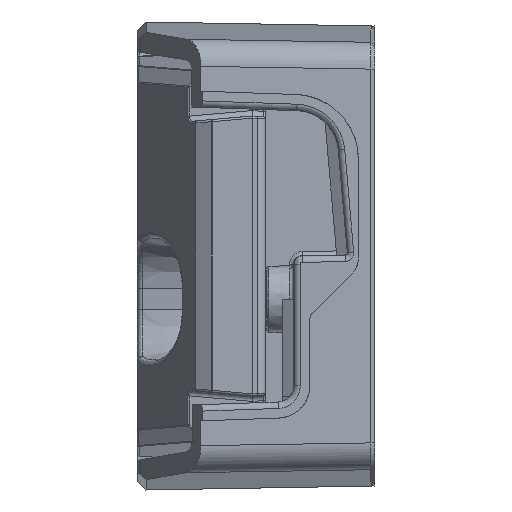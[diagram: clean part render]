
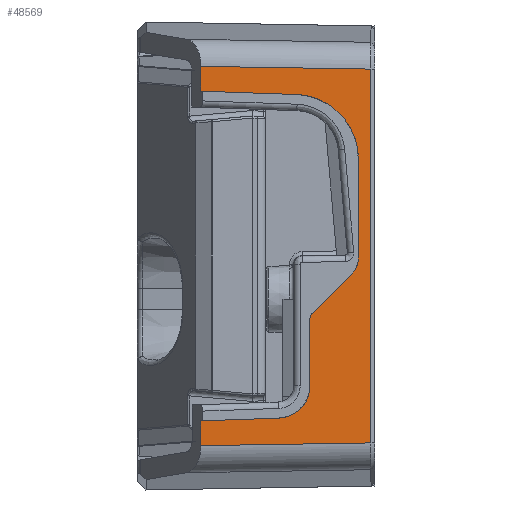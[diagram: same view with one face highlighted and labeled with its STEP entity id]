
A CAD part, left-side view. The second image highlights one B-rep face of the part: STEP entity #48569.
In plain terms, the highlighted planar face has unit normal (-1, -0.018, 0).
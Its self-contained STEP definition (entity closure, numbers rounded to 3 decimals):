
#704 =( BOUNDED_CURVE ( )  B_SPLINE_CURVE ( 3, ( #135104, #28384, #39841, #30629 ),
 .UNSPECIFIED., .F., .F. ) 
 B_SPLINE_CURVE_WITH_KNOTS ( ( 4, 4 ),
 ( 5.498, 6.283 ),
 .UNSPECIFIED. ) 
 CURVE ( )  GEOMETRIC_REPRESENTATION_ITEM ( )  RATIONAL_B_SPLINE_CURVE ( ( 1., 0.949, 0.949, 1. ) ) 
 REPRESENTATION_ITEM ( '' )  );
#1016 = AXIS2_PLACEMENT_3D ( 'NONE', #99237, #51968, #51227 ) ;
#3045 = VERTEX_POINT ( 'NONE', #68424 ) ;
#4633 = PLANE ( 'NONE',  #1016 ) ;
#6024 = EDGE_CURVE ( 'NONE', #40184, #68858, #48511, .T. ) ;
#7207 = CARTESIAN_POINT ( 'NONE',  ( -72.633, 1.5, 12.415 ) ) ;
#8900 = ORIENTED_EDGE ( 'NONE', *, *, #6024, .F. ) ;
#9000 = EDGE_CURVE ( 'NONE', #40184, #144266, #127580, .T. ) ;
#10662 = CARTESIAN_POINT ( 'NONE',  ( -72.633, 1.5, -0.709 ) ) ;
#12581 = DIRECTION ( 'NONE',  ( 0., 0., 1. ) ) ;
#13620 = VERTEX_POINT ( 'NONE', #120472 ) ;
#15319 = FACE_OUTER_BOUND ( 'NONE', #112232, .T. ) ;
#15800 = CARTESIAN_POINT ( 'NONE',  ( -72.888, 16.121, -15.301 ) ) ;
#16610 = ORIENTED_EDGE ( 'NONE', *, *, #147770, .F. ) ;
#17102 = LINE ( 'NONE', #19391, #86036 ) ;
#19391 = CARTESIAN_POINT ( 'NONE',  ( -72.991, 22.04, -17.697 ) ) ;
#20194 = CARTESIAN_POINT ( 'NONE',  ( -72.633, 1.5, -1. ) ) ;
#22099 = EDGE_CURVE ( 'NONE', #50490, #89593, #57225, .T. ) ;
#23606 = CARTESIAN_POINT ( 'NONE',  ( -72.612, 0.332, 17.349 ) ) ;
#25943 = VERTEX_POINT ( 'NONE', #62823 ) ;
#27703 = EDGE_CURVE ( 'NONE', #67527, #49726, #95968, .T. ) ;
#28384 = CARTESIAN_POINT ( 'NONE',  ( -72.71, 5.897, -5.397 ) ) ;
#28821 = DIRECTION ( 'NONE',  ( 0.012, -0.707, 0.707 ) ) ;
#29110 = CARTESIAN_POINT ( 'NONE',  ( -72.762, 8.895, -15.049 ) ) ;
#29194 = VECTOR ( 'NONE', #97255, 1000. ) ;
#29354 = CARTESIAN_POINT ( 'NONE',  ( -72.633, 1.5, 8.996 ) ) ;
#30629 = CARTESIAN_POINT ( 'NONE',  ( -72.711, 6., -5.914 ) ) ;
#30855 = CARTESIAN_POINT ( 'NONE',  ( -72.734, 7.291, 14.993 ) ) ;
#32056 = CARTESIAN_POINT ( 'NONE',  ( -72.643, 2.086, -1.586 ) ) ;
#35718 = ORIENTED_EDGE ( 'NONE', *, *, #22099, .T. ) ;
#38011 = EDGE_CURVE ( 'NONE', #130501, #45905, #65188, .T. ) ;
#38214 = VECTOR ( 'NONE', #88942, 1000. ) ;
#38658 = CARTESIAN_POINT ( 'NONE',  ( -72.612, 0.332, -17.349 ) ) ;
#39205 = CARTESIAN_POINT ( 'NONE',  ( -72.643, 2.086, -1.586 ) ) ;
#39763 = ORIENTED_EDGE ( 'NONE', *, *, #109271, .F. ) ;
#39841 = CARTESIAN_POINT ( 'NONE',  ( -72.711, 6., -5.645 ) ) ;
#40184 = VERTEX_POINT ( 'NONE', #110683 ) ;
#40293 = CARTESIAN_POINT ( 'NONE',  ( -72.715, 6.232, 14.956 ) ) ;
#43456 = VECTOR ( 'NONE', #123516, 1000. ) ;
#44501 = ORIENTED_EDGE ( 'NONE', *, *, #113294, .T. ) ;
#45905 = VERTEX_POINT ( 'NONE', #58718 ) ;
#46652 = LINE ( 'NONE', #127407, #120161 ) ;
#48511 = LINE ( 'NONE', #140704, #97223 ) ;
#48569 = ADVANCED_FACE ( 'NONE', ( #15319 ), #4633, .T. ) ;
#49726 = VERTEX_POINT ( 'NONE', #39205 ) ;
#50490 = VERTEX_POINT ( 'NONE', #38658 ) ;
#51227 = DIRECTION ( 'NONE',  ( 0.017, -1., 0. ) ) ;
#51968 = DIRECTION ( 'NONE',  ( -1., -0.017, 0. ) ) ;
#52527 = ORIENTED_EDGE ( 'NONE', *, *, #27703, .T. ) ;
#52588 = VECTOR ( 'NONE', #150135, 1000. ) ;
#53178 = VECTOR ( 'NONE', #111972, 1000. ) ;
#57225 = LINE ( 'NONE', #103690, #52588 ) ;
#58718 = CARTESIAN_POINT ( 'NONE',  ( -72.888, 16.121, 17.602 ) ) ;
#62823 = CARTESIAN_POINT ( 'NONE',  ( -72.888, 16.121, -17.602 ) ) ;
#63361 = VERTEX_POINT ( 'NONE', #85353 ) ;
#65188 = LINE ( 'NONE', #65930, #29194 ) ;
#65930 = CARTESIAN_POINT ( 'NONE',  ( -72.888, 16.121, 13.5 ) ) ;
#67527 = VERTEX_POINT ( 'NONE', #135038 ) ;
#68424 = CARTESIAN_POINT ( 'NONE',  ( -72.706, 5.707, -5.207 ) ) ;
#68858 = VERTEX_POINT ( 'NONE', #103985 ) ;
#69470 = ORIENTED_EDGE ( 'NONE', *, *, #115534, .T. ) ;
#69503 = DIRECTION ( 'NONE',  ( 0.017, -0.999, 0.035 ) ) ;
#70705 = VERTEX_POINT ( 'NONE', #15800 ) ;
#72118 = CARTESIAN_POINT ( 'NONE',  ( -72.762, 8.895, -15.049 ) ) ;
#75051 = CARTESIAN_POINT ( 'NONE',  ( -72.633, 1.5, -0.172 ) ) ;
#80372 = ORIENTED_EDGE ( 'NONE', *, *, #9000, .T. ) ;
#80694 = ORIENTED_EDGE ( 'NONE', *, *, #99986, .F. ) ;
#85353 = CARTESIAN_POINT ( 'NONE',  ( -72.633, 1.5, 8.996 ) ) ;
#86036 = VECTOR ( 'NONE', #135278, 1000. ) ;
#86790 = LINE ( 'NONE', #109676, #99209 ) ;
#88942 = DIRECTION ( 'NONE',  ( -0.017, 1., 0.016 ) ) ;
#89222 = ORIENTED_EDGE ( 'NONE', *, *, #110226, .F. ) ;
#89593 = VERTEX_POINT ( 'NONE', #23606 ) ;
#89994 = ORIENTED_EDGE ( 'NONE', *, *, #38011, .F. ) ;
#91423 = EDGE_CURVE ( 'NONE', #25943, #50490, #17102, .T. ) ;
#91563 = CARTESIAN_POINT ( 'NONE',  ( -72.636, 1.706, -1.206 ) ) ;
#93989 = CARTESIAN_POINT ( 'NONE',  ( -72.888, 16.121, 15.301 ) ) ;
#95968 =( BOUNDED_CURVE ( )  B_SPLINE_CURVE ( 3, ( #75051, #10662, #91563, #32056 ),
 .UNSPECIFIED., .F., .F. ) 
 B_SPLINE_CURVE_WITH_KNOTS ( ( 4, 4 ),
 ( 0., 0.785 ),
 .UNSPECIFIED. ) 
 CURVE ( )  GEOMETRIC_REPRESENTATION_ITEM ( )  RATIONAL_B_SPLINE_CURVE ( ( 1., 0.949, 0.949, 1. ) ) 
 REPRESENTATION_ITEM ( '' )  );
#97223 = VECTOR ( 'NONE', #12581, 1000. ) ;
#97255 = DIRECTION ( 'NONE',  ( 0., 0., 1. ) ) ;
#98135 = EDGE_CURVE ( 'NONE', #89593, #45905, #102658, .T. ) ;
#99209 = VECTOR ( 'NONE', #28821, 1000. ) ;
#99237 = CARTESIAN_POINT ( 'NONE',  ( -73., 22.539, 13.5 ) ) ;
#99986 = EDGE_CURVE ( 'NONE', #25943, #70705, #148592, .T. ) ;
#101016 =( BOUNDED_CURVE ( )  B_SPLINE_CURVE ( 3, ( #30855, #111745, #7207, #29354 ),
 .UNSPECIFIED., .F., .F. ) 
 B_SPLINE_CURVE_WITH_KNOTS ( ( 4, 4 ),
 ( 1.606, 3.142 ),
 .UNSPECIFIED. ) 
 CURVE ( )  GEOMETRIC_REPRESENTATION_ITEM ( )  RATIONAL_B_SPLINE_CURVE ( ( 1., 0.813, 0.813, 1. ) ) 
 REPRESENTATION_ITEM ( '' )  );
#102658 = LINE ( 'NONE', #124766, #38214 ) ;
#103690 = CARTESIAN_POINT ( 'NONE',  ( -72.612, 0.332, 13.5 ) ) ;
#103985 = CARTESIAN_POINT ( 'NONE',  ( -72.711, 6., -5.914 ) ) ;
#107176 = ORIENTED_EDGE ( 'NONE', *, *, #98135, .T. ) ;
#109271 = EDGE_CURVE ( 'NONE', #3045, #49726, #86790, .T. ) ;
#109676 = CARTESIAN_POINT ( 'NONE',  ( -72.711, 6.004, -5.504 ) ) ;
#110226 = EDGE_CURVE ( 'NONE', #13620, #130501, #117416, .T. ) ;
#110683 = CARTESIAN_POINT ( 'NONE',  ( -72.711, 6., -12.051 ) ) ;
#111745 = CARTESIAN_POINT ( 'NONE',  ( -72.674, 3.874, 14.873 ) ) ;
#111972 = DIRECTION ( 'NONE',  ( -0.017, 0.999, 0.035 ) ) ;
#112232 = EDGE_LOOP ( 'NONE', ( #80694, #119457, #35718, #107176, #89994, #89222, #44501, #16610, #52527, #39763, #69470, #8900, #80372, #142743 ) ) ;
#112825 = CARTESIAN_POINT ( 'NONE',  ( -72.888, 16.121, 13.5 ) ) ;
#113294 = EDGE_CURVE ( 'NONE', #13620, #63361, #101016, .T. ) ;
#114774 = DIRECTION ( 'NONE',  ( 0., 0., 1. ) ) ;
#115534 = EDGE_CURVE ( 'NONE', #3045, #68858, #704, .T. ) ;
#115629 = CARTESIAN_POINT ( 'NONE',  ( -72.711, 6., -13.76 ) ) ;
#117416 = LINE ( 'NONE', #40293, #53178 ) ;
#119457 = ORIENTED_EDGE ( 'NONE', *, *, #91423, .T. ) ;
#120161 = VECTOR ( 'NONE', #69503, 1000. ) ;
#120472 = CARTESIAN_POINT ( 'NONE',  ( -72.734, 7.291, 14.993 ) ) ;
#122178 = CARTESIAN_POINT ( 'NONE',  ( -72.732, 7.187, -14.989 ) ) ;
#123516 = DIRECTION ( 'NONE',  ( 0., 0., 1. ) ) ;
#124766 = CARTESIAN_POINT ( 'NONE',  ( -72.999, 22.472, 17.704 ) ) ;
#127033 = CARTESIAN_POINT ( 'NONE',  ( -72.711, 6., -12.051 ) ) ;
#127407 = CARTESIAN_POINT ( 'NONE',  ( -72.715, 6.232, -14.956 ) ) ;
#127580 =( BOUNDED_CURVE ( )  B_SPLINE_CURVE ( 3, ( #127033, #115629, #122178, #29110 ),
 .UNSPECIFIED., .F., .F. ) 
 B_SPLINE_CURVE_WITH_KNOTS ( ( 4, 4 ),
 ( 3.142, 4.677 ),
 .UNSPECIFIED. ) 
 CURVE ( )  GEOMETRIC_REPRESENTATION_ITEM ( )  RATIONAL_B_SPLINE_CURVE ( ( 1., 0.813, 0.813, 1. ) ) 
 REPRESENTATION_ITEM ( '' )  );
#127624 = EDGE_CURVE ( 'NONE', #70705, #144266, #46652, .T. ) ;
#127666 = LINE ( 'NONE', #20194, #146878 ) ;
#130501 = VERTEX_POINT ( 'NONE', #93989 ) ;
#135038 = CARTESIAN_POINT ( 'NONE',  ( -72.633, 1.5, -0.172 ) ) ;
#135104 = CARTESIAN_POINT ( 'NONE',  ( -72.706, 5.707, -5.207 ) ) ;
#135278 = DIRECTION ( 'NONE',  ( 0.017, -1., 0.016 ) ) ;
#140704 = CARTESIAN_POINT ( 'NONE',  ( -72.711, 6., -15. ) ) ;
#142743 = ORIENTED_EDGE ( 'NONE', *, *, #127624, .F. ) ;
#144266 = VERTEX_POINT ( 'NONE', #72118 ) ;
#146878 = VECTOR ( 'NONE', #114774, 1000. ) ;
#147770 = EDGE_CURVE ( 'NONE', #67527, #63361, #127666, .T. ) ;
#148592 = LINE ( 'NONE', #112825, #43456 ) ;
#150135 = DIRECTION ( 'NONE',  ( 0., 0., 1. ) ) ;
